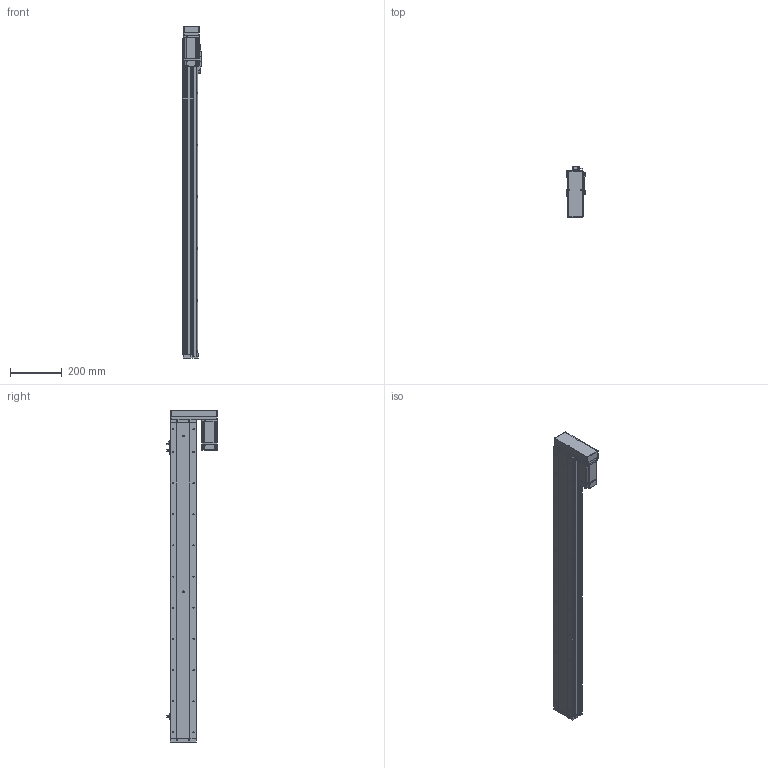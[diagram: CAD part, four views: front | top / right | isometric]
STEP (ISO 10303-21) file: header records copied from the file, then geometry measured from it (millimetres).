
FILE_DESCRIPTION (( 'STEP AP214' ), '1' );
FILE_NAME ('KSD100S-S1050-MR-CR.STEP', '2019-09-03T02:18:01', ( '微软用户' ), ( '微软中国' ), 'SwSTEP 2.0', 'SolidWorks 2014', '' );
FILE_SCHEMA (( 'AUTOMOTIVE_DESIGN' ));
Length unit declared in the file: millimetre
Products named in the file (14): 100遵裔啣1050俴最; 100遵耜啣1050俴最佪裝; 100宽底板全封闭1050行程丝杆; KSD100S-S1050-MR-CR; MHMD042G1CA_2_03; U倰嫖萇EEㄜSX672; 悵誘欶酘衵殏; 100宽马达安装板连板左右折丝杆; 感应片100宽全封闭; 100宽马达安装板全封闭; 100宽端板全封闭; 100宽滚珠螺姆安装板1防护罩; 100宽滚珠螺姆安装板1; 100遵裔啣揤啣
Assembly tree (17 placements, depth 2):
  KSD100S-S1050-MR-CR
    100宽底板全封闭1050行程丝杆
    100遵耜啣1050俴最佪裝  x2
    100遵裔啣1050俴最
    100遵裔啣揤啣  x2
    100宽滚珠螺姆安装板1
    100宽滚珠螺姆安装板1防护罩
    100宽端板全封闭
    100宽马达安装板全封闭
    感应片100宽全封闭
    100宽马达安装板连板左右折丝杆
    悵誘欶酘衵殏
    U倰嫖萇EEㄜSX672  x3
    MHMD042G1CA_2_03
Bounding box: 70 x 193.7 x 1278.5 mm (x, y, z)
Volume: 2518939.7 mm3; surface area: 1120408.9 mm2
Topology: 16 solids, 17 shells, 1785 faces, 4988 edges, 3154 vertices
Faces by surface type: cylinder 783, plane 703, cone 281, bspline 18
Entity records: 60050 total; most frequent: CARTESIAN_POINT 9520, DIRECTION 8543, ORIENTED_EDGE 7868, EDGE_CURVE 4006, AXIS2_PLACEMENT_3D 3085, VERTEX_POINT 2652, VECTOR 2373, LINE 2373
